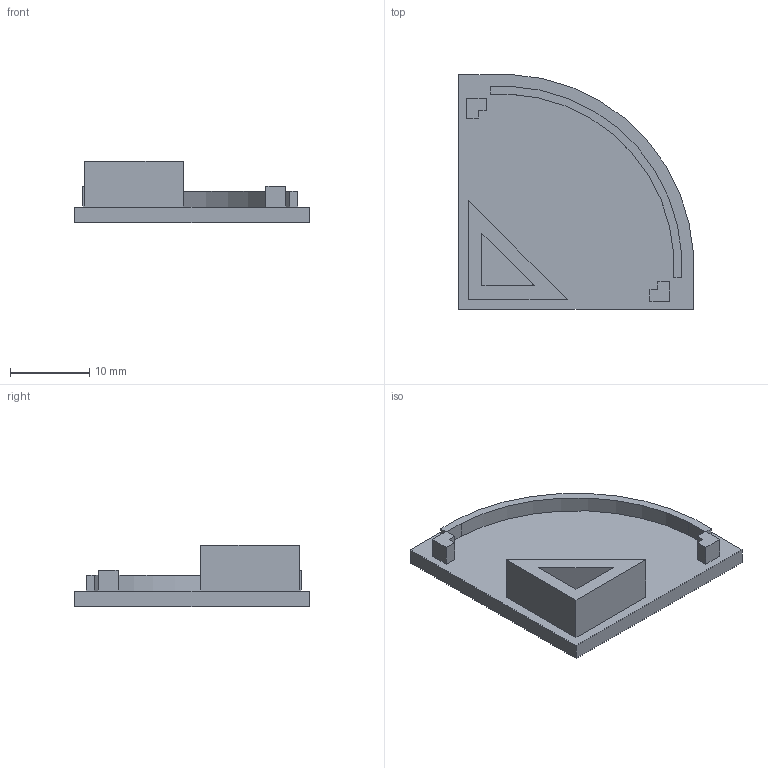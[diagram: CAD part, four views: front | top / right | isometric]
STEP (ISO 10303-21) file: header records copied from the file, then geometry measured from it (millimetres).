
FILE_DESCRIPTION (( 'STEP AP203' ), '1' );
FILE_NAME ('Corner Endcap.STEP', '2026-04-20T12:48:08', ( '' ), ( '' ), 'SwSTEP 2.0', 'SolidWorks 2025', '' );
FILE_SCHEMA (( 'CONFIG_CONTROL_DESIGN' ));
Length unit declared in the file: millimetre
Products named in the file (1): Corner Endcap
Bounding box: 29.7 x 29.7 x 7.8 mm (x, y, z)
Volume: 1944 mm3; surface area: 2322.7 mm2
Topology: 1 solids, 1 shells, 38 faces, 93 edges, 62 vertices
Faces by surface type: plane 35, cylinder 3
Entity records: 1180 total; most frequent: CARTESIAN_POINT 194, ORIENTED_EDGE 186, DIRECTION 177, EDGE_CURVE 93, LINE 87, VECTOR 87, VERTEX_POINT 62, AXIS2_PLACEMENT_3D 45
